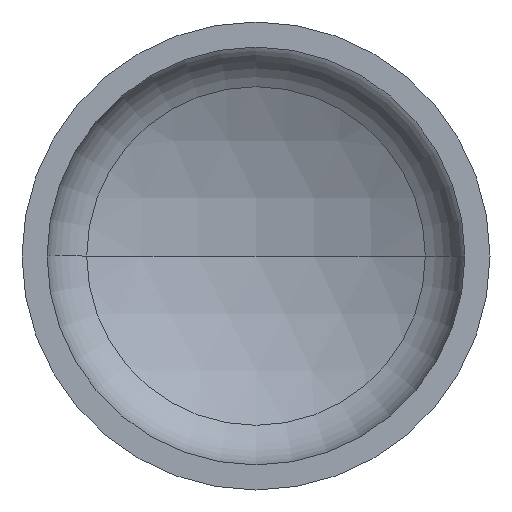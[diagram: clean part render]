
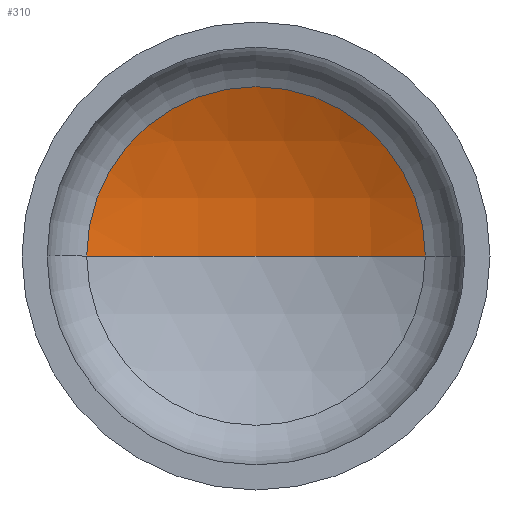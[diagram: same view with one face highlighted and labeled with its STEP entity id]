
A CAD part, front view. The second image highlights one B-rep face of the part: STEP entity #310.
In plain terms, the highlighted spherical face has radius 1760 mm.
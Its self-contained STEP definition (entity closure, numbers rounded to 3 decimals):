
#1 = AXIS2_PLACEMENT_3D ( 'NONE', #400, #255, #263 ) ;
#8 = AXIS2_PLACEMENT_3D ( 'NONE', #347, #207, #372 ) ;
#22 = AXIS2_PLACEMENT_3D ( 'NONE', #298, #125, #327 ) ;
#23 = AXIS2_PLACEMENT_3D ( 'NONE', #118, #158, #318 ) ;
#30 = VERTEX_POINT ( 'NONE', #392 ) ;
#82 = CIRCLE ( 'NONE', #1, 1760. ) ;
#111 = ORIENTED_EDGE ( 'NONE', *, *, #113, .T. ) ;
#113 = EDGE_CURVE ( 'NONE', #195, #30, #134, .T. ) ;
#118 = CARTESIAN_POINT ( 'NONE',  ( 0., -1191.584, 0. ) ) ;
#125 = DIRECTION ( 'NONE',  ( 0., -1., 0. ) ) ;
#126 = VERTEX_POINT ( 'NONE', #276 ) ;
#134 = CIRCLE ( 'NONE', #22, 795.718 ) ;
#139 = EDGE_CURVE ( 'NONE', #126, #195, #225, .T. ) ;
#151 = EDGE_LOOP ( 'NONE', ( #183, #154, #111 ) ) ;
#154 = ORIENTED_EDGE ( 'NONE', *, *, #139, .T. ) ;
#156 = CARTESIAN_POINT ( 'NONE',  ( 795.718, 378.267, 0. ) ) ;
#158 = DIRECTION ( 'NONE',  ( 0., 0., -1. ) ) ;
#183 = ORIENTED_EDGE ( 'NONE', *, *, #336, .F. ) ;
#195 = VERTEX_POINT ( 'NONE', #156 ) ;
#207 = DIRECTION ( 'NONE',  ( 0., 0., -1. ) ) ;
#225 = CIRCLE ( 'NONE', #23, 1760. ) ;
#255 = DIRECTION ( 'NONE',  ( 0., 0., 1. ) ) ;
#263 = DIRECTION ( 'NONE',  ( 1., 0., 0. ) ) ;
#269 = FACE_OUTER_BOUND ( 'NONE', #151, .T. ) ;
#276 = CARTESIAN_POINT ( 'NONE',  ( 0., 568.416, 0. ) ) ;
#298 = CARTESIAN_POINT ( 'NONE',  ( 0., 378.267, 0. ) ) ;
#310 = ADVANCED_FACE ( 'NONE', ( #269 ), #389, .F. ) ;
#318 = DIRECTION ( 'NONE',  ( -1., 0., 0. ) ) ;
#327 = DIRECTION ( 'NONE',  ( 1., 0., 0. ) ) ;
#336 = EDGE_CURVE ( 'NONE', #126, #30, #82, .T. ) ;
#347 = CARTESIAN_POINT ( 'NONE',  ( 0., -1191.584, 0. ) ) ;
#372 = DIRECTION ( 'NONE',  ( -1., 0., 0. ) ) ;
#389 = SPHERICAL_SURFACE ( 'NONE', #8, 1760. ) ;
#392 = CARTESIAN_POINT ( 'NONE',  ( -795.718, 378.267, 0. ) ) ;
#400 = CARTESIAN_POINT ( 'NONE',  ( 0., -1191.584, 0. ) ) ;
